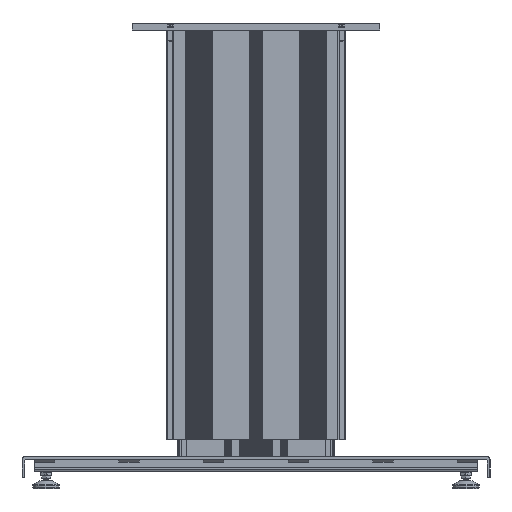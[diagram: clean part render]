
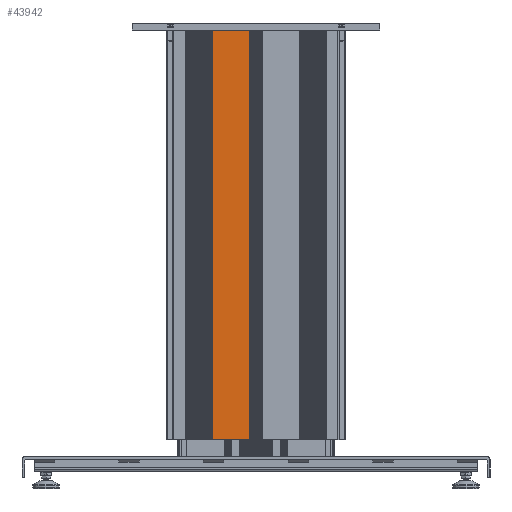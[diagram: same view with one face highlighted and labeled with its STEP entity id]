
A CAD part, front view. The second image highlights one B-rep face of the part: STEP entity #43942.
In plain terms, the highlighted planar face has unit normal (0, -1, 0) as drawn and (0, 0, -1) by its records, which use the part's own axes.
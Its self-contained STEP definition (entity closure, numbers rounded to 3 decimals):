
#9027=ORIENTED_EDGE('',*,*,#19283,.T.);
#9028=ORIENTED_EDGE('',*,*,#19284,.F.);
#9029=ORIENTED_EDGE('',*,*,#19285,.F.);
#9030=ORIENTED_EDGE('',*,*,#19286,.T.);
#19283=EDGE_CURVE('',#24882,#24883,#29310,.T.);
#19284=EDGE_CURVE('',#24884,#24883,#29311,.T.);
#19285=EDGE_CURVE('',#24885,#24884,#29312,.T.);
#19286=EDGE_CURVE('',#24885,#24882,#29313,.T.);
#24882=VERTEX_POINT('',#77284);
#24883=VERTEX_POINT('',#77285);
#24884=VERTEX_POINT('',#77287);
#24885=VERTEX_POINT('',#77289);
#29310=LINE('',#77283,#33791);
#29311=LINE('',#77286,#33792);
#29312=LINE('',#77288,#33793);
#29313=LINE('',#77290,#33794);
#33791=VECTOR('',#63541,1000.);
#33792=VECTOR('',#63542,1000.);
#33793=VECTOR('',#63543,1000.);
#33794=VECTOR('',#63544,1000.);
#37197=EDGE_LOOP('',(#9027,#9028,#9029,#9030));
#39827=FACE_BOUND('',#37197,.T.);
#42132=PLANE('',#55555);
#43942=ADVANCED_FACE('',(#39827),#42132,.T.);
#55555=AXIS2_PLACEMENT_3D('',#77282,#63539,#63540);
#63539=DIRECTION('',(0.,0.,-1.));
#63540=DIRECTION('',(-1.,0.,0.));
#63541=DIRECTION('',(0.,-1.,0.));
#63542=DIRECTION('',(1.,0.,0.));
#63543=DIRECTION('',(0.,-1.,0.));
#63544=DIRECTION('',(1.,0.,0.));
#77282=CARTESIAN_POINT('',(-130.,595.,-20.));
#77283=CARTESIAN_POINT('',(62.9,650.557,-20.));
#77284=CARTESIAN_POINT('',(62.9,595.,-20.));
#77285=CARTESIAN_POINT('',(62.9,0.,-20.));
#77286=CARTESIAN_POINT('',(-130.,0.,-20.));
#77287=CARTESIAN_POINT('',(9.2,0.,-20.));
#77288=CARTESIAN_POINT('',(9.2,650.557,-20.));
#77289=CARTESIAN_POINT('',(9.2,595.,-20.));
#77290=CARTESIAN_POINT('',(-130.,595.,-20.));
